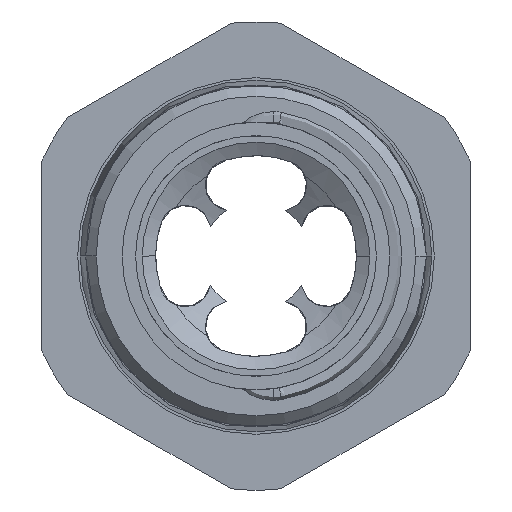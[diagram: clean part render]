
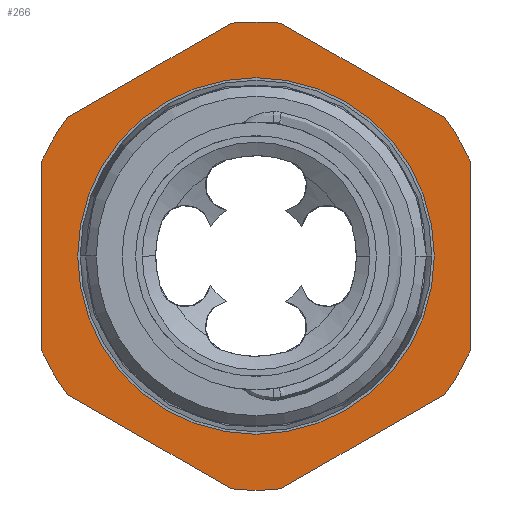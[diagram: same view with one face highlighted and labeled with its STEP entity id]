
A CAD part, front view. The second image highlights one B-rep face of the part: STEP entity #266.
In plain terms, the highlighted planar face has unit normal (0, -1, 0).
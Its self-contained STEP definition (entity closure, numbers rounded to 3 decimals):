
#266 = ADVANCED_FACE( '', ( #701, #702 ), #703, .T. );
#701 = FACE_OUTER_BOUND( '', #1138, .T. );
#702 = FACE_BOUND( '', #1139, .T. );
#703 = PLANE( '', #1140 );
#1138 = EDGE_LOOP( '', ( #2824, #2825, #2826, #2827, #2828, #2829, #2830, #2831, #2832, #2833, #2834, #2835 ) );
#1139 = EDGE_LOOP( '', ( #2836, #2837 ) );
#1140 = AXIS2_PLACEMENT_3D( '', #2838, #2839, #2840 );
#2824 = ORIENTED_EDGE( '', *, *, #3371, .T. );
#2825 = ORIENTED_EDGE( '', *, *, #3410, .F. );
#2826 = ORIENTED_EDGE( '', *, *, #3391, .T. );
#2827 = ORIENTED_EDGE( '', *, *, #3403, .F. );
#2828 = ORIENTED_EDGE( '', *, *, #3387, .T. );
#2829 = ORIENTED_EDGE( '', *, *, #3401, .F. );
#2830 = ORIENTED_EDGE( '', *, *, #3383, .T. );
#2831 = ORIENTED_EDGE( '', *, *, #3400, .F. );
#2832 = ORIENTED_EDGE( '', *, *, #3379, .T. );
#2833 = ORIENTED_EDGE( '', *, *, #3402, .F. );
#2834 = ORIENTED_EDGE( '', *, *, #3375, .T. );
#2835 = ORIENTED_EDGE( '', *, *, #3404, .F. );
#2836 = ORIENTED_EDGE( '', *, *, #2902, .T. );
#2837 = ORIENTED_EDGE( '', *, *, #3409, .T. );
#2838 = CARTESIAN_POINT( '', ( 15.413, 20., 0. ) );
#2839 = DIRECTION( '', ( 0., -1., 0. ) );
#2840 = DIRECTION( '', ( -1., 0., 0. ) );
#2902 = EDGE_CURVE( '', #3502, #3506, #3508, .T. );
#3371 = EDGE_CURVE( '', #4273, #4270, #4274, .T. );
#3375 = EDGE_CURVE( '', #4281, #4278, #4282, .T. );
#3379 = EDGE_CURVE( '', #4289, #4286, #4290, .T. );
#3383 = EDGE_CURVE( '', #4297, #4294, #4298, .T. );
#3387 = EDGE_CURVE( '', #4305, #4302, #4306, .T. );
#3391 = EDGE_CURVE( '', #4313, #4310, #4314, .T. );
#3400 = EDGE_CURVE( '', #4289, #4294, #4324, .T. );
#3401 = EDGE_CURVE( '', #4297, #4302, #4325, .T. );
#3402 = EDGE_CURVE( '', #4281, #4286, #4326, .T. );
#3403 = EDGE_CURVE( '', #4305, #4310, #4327, .T. );
#3404 = EDGE_CURVE( '', #4273, #4278, #4328, .T. );
#3409 = EDGE_CURVE( '', #3506, #3502, #4333, .T. );
#3410 = EDGE_CURVE( '', #4313, #4270, #4334, .T. );
#3502 = VERTEX_POINT( '', #4470 );
#3506 = VERTEX_POINT( '', #4475 );
#3508 = CIRCLE( '', #4478, 13.325 );
#4270 = VERTEX_POINT( '', #9386 );
#4273 = VERTEX_POINT( '', #9390 );
#4274 = LINE( '', #9391, #9392 );
#4278 = VERTEX_POINT( '', #9398 );
#4281 = VERTEX_POINT( '', #9402 );
#4282 = LINE( '', #9403, #9404 );
#4286 = VERTEX_POINT( '', #9410 );
#4289 = VERTEX_POINT( '', #9414 );
#4290 = LINE( '', #9415, #9416 );
#4294 = VERTEX_POINT( '', #9422 );
#4297 = VERTEX_POINT( '', #9426 );
#4298 = LINE( '', #9427, #9428 );
#4302 = VERTEX_POINT( '', #9434 );
#4305 = VERTEX_POINT( '', #9438 );
#4306 = LINE( '', #9439, #9440 );
#4310 = VERTEX_POINT( '', #9446 );
#4313 = VERTEX_POINT( '', #9450 );
#4314 = LINE( '', #9451, #9452 );
#4324 = CIRCLE( '', #9464, 17.5 );
#4325 = CIRCLE( '', #9465, 17.5 );
#4326 = CIRCLE( '', #9466, 17.5 );
#4327 = CIRCLE( '', #9467, 17.5 );
#4328 = CIRCLE( '', #9468, 17.5 );
#4333 = CIRCLE( '', #9473, 13.325 );
#4334 = CIRCLE( '', #9474, 17.5 );
#4470 = CARTESIAN_POINT( '', ( 13.325, 20., 0. ) );
#4475 = CARTESIAN_POINT( '', ( -13.325, 20., 0. ) );
#4478 = AXIS2_PLACEMENT_3D( '', #9621, #9622, #9623 );
#9386 = CARTESIAN_POINT( '', ( -16., 20., -7.089 ) );
#9390 = CARTESIAN_POINT( '', ( -16., 20., 7.089 ) );
#9391 = CARTESIAN_POINT( '', ( -16., 20., -4.619 ) );
#9392 = VECTOR( '', #10250, 1. );
#9398 = CARTESIAN_POINT( '', ( -14.139, 20., 10.312 ) );
#9402 = CARTESIAN_POINT( '', ( -1.861, 20., 17.401 ) );
#9403 = CARTESIAN_POINT( '', ( -6.22, 20., 14.884 ) );
#9404 = VECTOR( '', #10254, 1. );
#9410 = CARTESIAN_POINT( '', ( 1.861, 20., 17.401 ) );
#9414 = CARTESIAN_POINT( '', ( 14.139, 20., 10.312 ) );
#9415 = CARTESIAN_POINT( '', ( 9.78, 20., 12.829 ) );
#9416 = VECTOR( '', #10258, 1. );
#9422 = CARTESIAN_POINT( '', ( 16., 20., 7.089 ) );
#9426 = CARTESIAN_POINT( '', ( 16., 20., -7.089 ) );
#9427 = CARTESIAN_POINT( '', ( 16., 20., 4.619 ) );
#9428 = VECTOR( '', #10262, 1. );
#9434 = CARTESIAN_POINT( '', ( 14.139, 20., -10.312 ) );
#9438 = CARTESIAN_POINT( '', ( 1.861, 20., -17.401 ) );
#9439 = CARTESIAN_POINT( '', ( 17.78, 20., -8.21 ) );
#9440 = VECTOR( '', #10266, 1. );
#9446 = CARTESIAN_POINT( '', ( -1.861, 20., -17.401 ) );
#9450 = CARTESIAN_POINT( '', ( -14.139, 20., -10.312 ) );
#9451 = CARTESIAN_POINT( '', ( 1.78, 20., -19.503 ) );
#9452 = VECTOR( '', #10270, 1. );
#9464 = AXIS2_PLACEMENT_3D( '', #10291, #10292, #10293 );
#9465 = AXIS2_PLACEMENT_3D( '', #10294, #10295, #10296 );
#9466 = AXIS2_PLACEMENT_3D( '', #10297, #10298, #10299 );
#9467 = AXIS2_PLACEMENT_3D( '', #10300, #10301, #10302 );
#9468 = AXIS2_PLACEMENT_3D( '', #10303, #10304, #10305 );
#9473 = AXIS2_PLACEMENT_3D( '', #10318, #10319, #10320 );
#9474 = AXIS2_PLACEMENT_3D( '', #10321, #10322, #10323 );
#9621 = CARTESIAN_POINT( '', ( 0., 20., 0. ) );
#9622 = DIRECTION( '', ( 0., 1., 0. ) );
#9623 = DIRECTION( '', ( 1., 0., 0. ) );
#10250 = DIRECTION( '', ( 0., 0., -1. ) );
#10254 = DIRECTION( '', ( -0.866, 0., -0.5 ) );
#10258 = DIRECTION( '', ( -0.866, 0., 0.5 ) );
#10262 = DIRECTION( '', ( 0., 0., 1. ) );
#10266 = DIRECTION( '', ( 0.866, 0., 0.5 ) );
#10270 = DIRECTION( '', ( 0.866, 0., -0.5 ) );
#10291 = CARTESIAN_POINT( '', ( 0., 20., 0. ) );
#10292 = DIRECTION( '', ( 0., 1., 0. ) );
#10293 = DIRECTION( '', ( 1., 0., 0. ) );
#10294 = CARTESIAN_POINT( '', ( 0., 20., 0. ) );
#10295 = DIRECTION( '', ( 0., 1., 0. ) );
#10296 = DIRECTION( '', ( 1., 0., 0. ) );
#10297 = CARTESIAN_POINT( '', ( 0., 20., 0. ) );
#10298 = DIRECTION( '', ( 0., 1., 0. ) );
#10299 = DIRECTION( '', ( 1., 0., 0. ) );
#10300 = CARTESIAN_POINT( '', ( 0., 20., 0. ) );
#10301 = DIRECTION( '', ( 0., 1., 0. ) );
#10302 = DIRECTION( '', ( 1., 0., 0. ) );
#10303 = CARTESIAN_POINT( '', ( 0., 20., 0. ) );
#10304 = DIRECTION( '', ( 0., 1., 0. ) );
#10305 = DIRECTION( '', ( 1., 0., 0. ) );
#10318 = CARTESIAN_POINT( '', ( 0., 20., 0. ) );
#10319 = DIRECTION( '', ( 0., 1., 0. ) );
#10320 = DIRECTION( '', ( 1., 0., 0. ) );
#10321 = CARTESIAN_POINT( '', ( 0., 20., 0. ) );
#10322 = DIRECTION( '', ( 0., 1., 0. ) );
#10323 = DIRECTION( '', ( 1., 0., 0. ) );
